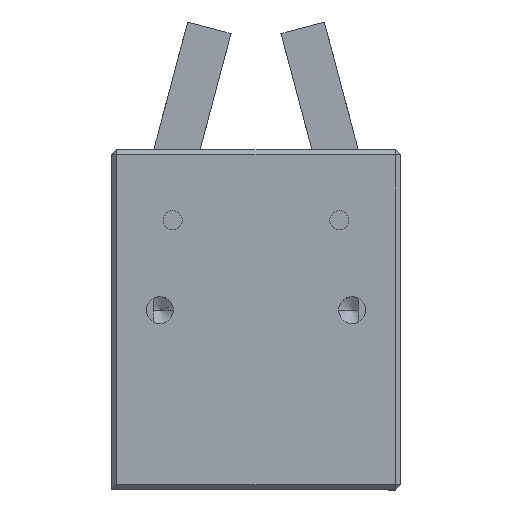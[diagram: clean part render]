
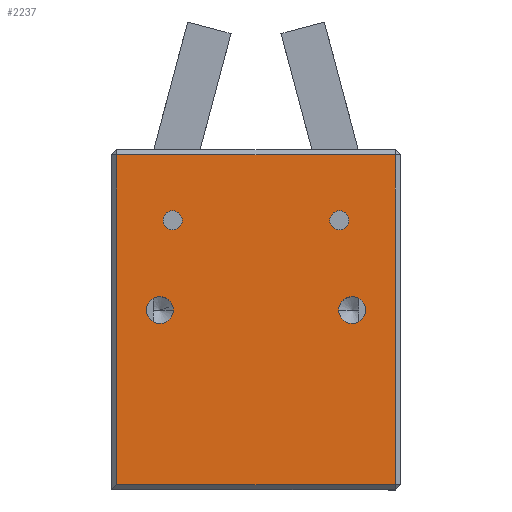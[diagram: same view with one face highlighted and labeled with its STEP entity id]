
A CAD part, top view. The second image highlights one B-rep face of the part: STEP entity #2237.
In plain terms, the highlighted planar face has unit normal (0, 0, 1).
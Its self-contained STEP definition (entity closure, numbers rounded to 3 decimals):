
#2167 = ORIENTED_EDGE ( 'NONE', *, *, #2455, .F. ) ;
#2172 = ORIENTED_EDGE ( 'NONE', *, *, #2467, .T. ) ;
#2173 = EDGE_CURVE ( 'NONE', #2230, #2252, #14241, .T. ) ;
#2175 = EDGE_LOOP ( 'NONE', ( #2200, #2446 ) ) ;
#2183 = ORIENTED_EDGE ( 'NONE', *, *, #2173, .T. ) ;
#2189 = EDGE_CURVE ( 'NONE', #2252, #2251, #14276, .T. ) ;
#2195 = EDGE_CURVE ( 'NONE', #3568, #3561, #14272, .T. ) ;
#2198 = EDGE_LOOP ( 'NONE', ( #2167, #2464 ) ) ;
#2200 = ORIENTED_EDGE ( 'NONE', *, *, #2195, .F. ) ;
#2225 = ORIENTED_EDGE ( 'NONE', *, *, #2693, .T. ) ;
#2226 = EDGE_LOOP ( 'NONE', ( #2238, #2225 ) ) ;
#2228 = VERTEX_POINT ( 'NONE', #14287 ) ;
#2229 = EDGE_LOOP ( 'NONE', ( #2248, #2233 ) ) ;
#2230 = VERTEX_POINT ( 'NONE', #14303 ) ;
#2231 = EDGE_CURVE ( 'NONE', #2744, #2692, #14298, .T. ) ;
#2233 = ORIENTED_EDGE ( 'NONE', *, *, #5275, .T. ) ;
#2237 = ADVANCED_FACE ( 'NONE', ( #14349, #14340, #14348, #14351, #14342 ), #14299, .F. ) ;
#2238 = ORIENTED_EDGE ( 'NONE', *, *, #2231, .T. ) ;
#2240 = EDGE_LOOP ( 'NONE', ( #2242, #2172, #2183, #2299 ) ) ;
#2242 = ORIENTED_EDGE ( 'NONE', *, *, #2247, .T. ) ;
#2244 = EDGE_CURVE ( 'NONE', #5205, #5204, #14333, .T. ) ;
#2247 = EDGE_CURVE ( 'NONE', #2251, #2228, #14336, .T. ) ;
#2248 = ORIENTED_EDGE ( 'NONE', *, *, #2244, .T. ) ;
#2251 = VERTEX_POINT ( 'NONE', #14331 ) ;
#2252 = VERTEX_POINT ( 'NONE', #14324 ) ;
#2299 = ORIENTED_EDGE ( 'NONE', *, *, #2189, .T. ) ;
#2446 = ORIENTED_EDGE ( 'NONE', *, *, #3602, .F. ) ;
#2455 = EDGE_CURVE ( 'NONE', #3606, #3601, #14692, .T. ) ;
#2464 = ORIENTED_EDGE ( 'NONE', *, *, #3621, .F. ) ;
#2467 = EDGE_CURVE ( 'NONE', #2228, #2230, #14779, .T. ) ;
#2692 = VERTEX_POINT ( 'NONE', #15286 ) ;
#2693 = EDGE_CURVE ( 'NONE', #2692, #2744, #15283, .T. ) ;
#2744 = VERTEX_POINT ( 'NONE', #15383 ) ;
#3561 = VERTEX_POINT ( 'NONE', #18904 ) ;
#3568 = VERTEX_POINT ( 'NONE', #18948 ) ;
#3601 = VERTEX_POINT ( 'NONE', #18998 ) ;
#3602 = EDGE_CURVE ( 'NONE', #3561, #3568, #18964, .T. ) ;
#3606 = VERTEX_POINT ( 'NONE', #19000 ) ;
#3621 = EDGE_CURVE ( 'NONE', #3601, #3606, #19024, .T. ) ;
#5204 = VERTEX_POINT ( 'NONE', #25918 ) ;
#5205 = VERTEX_POINT ( 'NONE', #25970 ) ;
#5275 = EDGE_CURVE ( 'NONE', #5204, #5205, #26186, .T. ) ;
#14227 = AXIS2_PLACEMENT_3D ( 'NONE', #14263, #14262, #14261 ) ;
#14229 = DIRECTION ( 'NONE',  ( 0., 1., 0. ) ) ;
#14230 = VECTOR ( 'NONE', #14229, 1000. ) ;
#14240 = CARTESIAN_POINT ( 'NONE',  ( 44.2, 53., 26. ) ) ;
#14241 = LINE ( 'NONE', #14240, #14230 ) ;
#14261 = DIRECTION ( 'NONE',  ( 1., 0., 0. ) ) ;
#14262 = DIRECTION ( 'NONE',  ( 0., 0., 1. ) ) ;
#14263 = CARTESIAN_POINT ( 'NONE',  ( 7.5, 28., 26. ) ) ;
#14272 = CIRCLE ( 'NONE', #14227, 2.1 ) ;
#14273 = DIRECTION ( 'NONE',  ( -1., 0., 0. ) ) ;
#14274 = VECTOR ( 'NONE', #14273, 1000. ) ;
#14275 = CARTESIAN_POINT ( 'NONE',  ( 0., 52.2, 26. ) ) ;
#14276 = LINE ( 'NONE', #14275, #14274 ) ;
#14287 = CARTESIAN_POINT ( 'NONE',  ( 0.8, 0.8, 26. ) ) ;
#14298 = CIRCLE ( 'NONE', #14308, 1.5 ) ;
#14299 = PLANE ( 'NONE',  #14341 ) ;
#14303 = CARTESIAN_POINT ( 'NONE',  ( 44.2, 0.8, 26. ) ) ;
#14308 = AXIS2_PLACEMENT_3D ( 'NONE', #14346, #14345, #14344 ) ;
#14320 = DIRECTION ( 'NONE',  ( 0., -1., 0. ) ) ;
#14321 = VECTOR ( 'NONE', #14320, 1000. ) ;
#14324 = CARTESIAN_POINT ( 'NONE',  ( 44.2, 52.2, 26. ) ) ;
#14325 = DIRECTION ( 'NONE',  ( -1., 0., 0. ) ) ;
#14326 = DIRECTION ( 'NONE',  ( 0., 0., -1. ) ) ;
#14327 = CARTESIAN_POINT ( 'NONE',  ( 9.5, 42., 26. ) ) ;
#14328 = AXIS2_PLACEMENT_3D ( 'NONE', #14327, #14326, #14325 ) ;
#14330 = DIRECTION ( 'NONE',  ( -1., 0., 0. ) ) ;
#14331 = CARTESIAN_POINT ( 'NONE',  ( 0.8, 52.2, 26. ) ) ;
#14333 = CIRCLE ( 'NONE', #14328, 1.5 ) ;
#14335 = CARTESIAN_POINT ( 'NONE',  ( 0.8, 53., 26. ) ) ;
#14336 = LINE ( 'NONE', #14335, #14321 ) ;
#14337 = CARTESIAN_POINT ( 'NONE',  ( 0., 53., 26. ) ) ;
#14340 = FACE_BOUND ( 'NONE', #2229, .T. ) ;
#14341 = AXIS2_PLACEMENT_3D ( 'NONE', #14337, #14350, #14330 ) ;
#14342 = FACE_BOUND ( 'NONE', #2198, .T. ) ;
#14344 = DIRECTION ( 'NONE',  ( -1., 0., 0. ) ) ;
#14345 = DIRECTION ( 'NONE',  ( 0., 0., -1. ) ) ;
#14346 = CARTESIAN_POINT ( 'NONE',  ( 35.5, 42., 26. ) ) ;
#14348 = FACE_OUTER_BOUND ( 'NONE', #2240, .T. ) ;
#14349 = FACE_BOUND ( 'NONE', #2226, .T. ) ;
#14350 = DIRECTION ( 'NONE',  ( 0., 0., -1. ) ) ;
#14351 = FACE_BOUND ( 'NONE', #2175, .T. ) ;
#14690 = DIRECTION ( 'NONE',  ( 1., 0., 0. ) ) ;
#14691 = AXIS2_PLACEMENT_3D ( 'NONE', #14702, #14699, #14690 ) ;
#14692 = CIRCLE ( 'NONE', #14691, 2.1 ) ;
#14699 = DIRECTION ( 'NONE',  ( 0., 0., 1. ) ) ;
#14702 = CARTESIAN_POINT ( 'NONE',  ( 37.5, 28., 26. ) ) ;
#14776 = DIRECTION ( 'NONE',  ( 1., 0., 0. ) ) ;
#14777 = VECTOR ( 'NONE', #14776, 1000. ) ;
#14778 = CARTESIAN_POINT ( 'NONE',  ( 0., 0.8, 26. ) ) ;
#14779 = LINE ( 'NONE', #14778, #14777 ) ;
#15275 = DIRECTION ( 'NONE',  ( -1., 0., 0. ) ) ;
#15276 = DIRECTION ( 'NONE',  ( 0., 0., -1. ) ) ;
#15277 = CARTESIAN_POINT ( 'NONE',  ( 35.5, 42., 26. ) ) ;
#15283 = CIRCLE ( 'NONE', #15287, 1.5 ) ;
#15286 = CARTESIAN_POINT ( 'NONE',  ( 37., 42., 26. ) ) ;
#15287 = AXIS2_PLACEMENT_3D ( 'NONE', #15277, #15276, #15275 ) ;
#15383 = CARTESIAN_POINT ( 'NONE',  ( 34., 42., 26. ) ) ;
#18904 = CARTESIAN_POINT ( 'NONE',  ( 5.4, 28., 26. ) ) ;
#18948 = CARTESIAN_POINT ( 'NONE',  ( 9.6, 28., 26. ) ) ;
#18964 = CIRCLE ( 'NONE', #18988, 2.1 ) ;
#18985 = DIRECTION ( 'NONE',  ( 1., 0., 0. ) ) ;
#18986 = DIRECTION ( 'NONE',  ( 0., 0., 1. ) ) ;
#18987 = CARTESIAN_POINT ( 'NONE',  ( 7.5, 28., 26. ) ) ;
#18988 = AXIS2_PLACEMENT_3D ( 'NONE', #18987, #18986, #18985 ) ;
#18998 = CARTESIAN_POINT ( 'NONE',  ( 35.4, 28., 26. ) ) ;
#19000 = CARTESIAN_POINT ( 'NONE',  ( 39.6, 28., 26. ) ) ;
#19020 = DIRECTION ( 'NONE',  ( 1., 0., 0. ) ) ;
#19021 = DIRECTION ( 'NONE',  ( 0., 0., 1. ) ) ;
#19022 = AXIS2_PLACEMENT_3D ( 'NONE', #19030, #19021, #19020 ) ;
#19024 = CIRCLE ( 'NONE', #19022, 2.1 ) ;
#19030 = CARTESIAN_POINT ( 'NONE',  ( 37.5, 28., 26. ) ) ;
#25918 = CARTESIAN_POINT ( 'NONE',  ( 11., 42., 26. ) ) ;
#25970 = CARTESIAN_POINT ( 'NONE',  ( 8., 42., 26. ) ) ;
#26183 = DIRECTION ( 'NONE',  ( -1., 0., 0. ) ) ;
#26184 = DIRECTION ( 'NONE',  ( 0., 0., -1. ) ) ;
#26185 = AXIS2_PLACEMENT_3D ( 'NONE', #26193, #26184, #26183 ) ;
#26186 = CIRCLE ( 'NONE', #26185, 1.5 ) ;
#26193 = CARTESIAN_POINT ( 'NONE',  ( 9.5, 42., 26. ) ) ;
